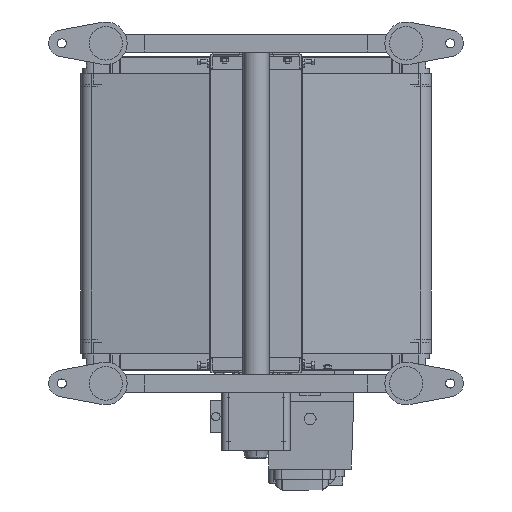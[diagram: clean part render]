
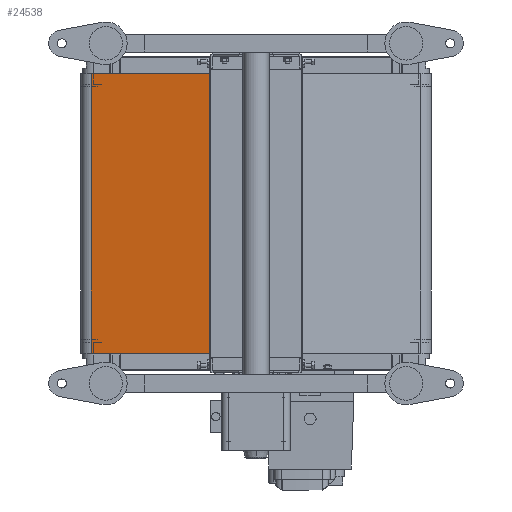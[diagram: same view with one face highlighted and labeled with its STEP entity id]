
A CAD part, front view. The second image highlights one B-rep face of the part: STEP entity #24538.
In plain terms, the highlighted planar face has unit normal (-0.176, -0.984, 0).
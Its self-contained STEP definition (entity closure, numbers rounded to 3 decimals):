
#578 = EDGE_CURVE ( 'NONE', #59422, #48893, #8103, .T. ) ;
#1359 = DIRECTION ( 'NONE',  ( 0.984, -0.176, 0. ) ) ;
#3165 = AXIS2_PLACEMENT_3D ( 'NONE', #43776, #38526, #69634 ) ;
#5311 = PLANE ( 'NONE',  #3165 ) ;
#5525 = EDGE_LOOP ( 'NONE', ( #17003, #19089, #44042, #54432 ) ) ;
#8103 = LINE ( 'NONE', #26527, #53080 ) ;
#9254 = EDGE_CURVE ( 'NONE', #48893, #72593, #35725, .T. ) ;
#12320 = DIRECTION ( 'NONE',  ( 0., 0., -1. ) ) ;
#15921 = FACE_OUTER_BOUND ( 'NONE', #5525, .T. ) ;
#17003 = ORIENTED_EDGE ( 'NONE', *, *, #60615, .T. ) ;
#17851 = CARTESIAN_POINT ( 'NONE',  ( 217.987, -70.264, 200. ) ) ;
#18160 = EDGE_CURVE ( 'NONE', #59422, #79700, #28914, .T. ) ;
#19089 = ORIENTED_EDGE ( 'NONE', *, *, #9254, .F. ) ;
#24538 = ADVANCED_FACE ( 'NONE', ( #15921 ), #5311, .F. ) ;
#24565 = VECTOR ( 'NONE', #1359, 1000. ) ;
#26527 = CARTESIAN_POINT ( 'NONE',  ( 14.409, -33.936, 200. ) ) ;
#28914 = LINE ( 'NONE', #77594, #70181 ) ;
#31566 = CARTESIAN_POINT ( 'NONE',  ( 217.987, -70.264, -200. ) ) ;
#33312 = LINE ( 'NONE', #70316, #24565 ) ;
#35725 = LINE ( 'NONE', #17851, #48502 ) ;
#38526 = DIRECTION ( 'NONE',  ( 0.176, 0.984, 0. ) ) ;
#39225 = CARTESIAN_POINT ( 'NONE',  ( 14.409, -33.936, -200. ) ) ;
#39308 = DIRECTION ( 'NONE',  ( 0.984, -0.176, 0. ) ) ;
#43776 = CARTESIAN_POINT ( 'NONE',  ( 14.409, -33.936, 200. ) ) ;
#44042 = ORIENTED_EDGE ( 'NONE', *, *, #578, .F. ) ;
#46612 = DIRECTION ( 'NONE',  ( 0., 0., -1. ) ) ;
#48502 = VECTOR ( 'NONE', #12320, 1000. ) ;
#48893 = VERTEX_POINT ( 'NONE', #78188 ) ;
#53080 = VECTOR ( 'NONE', #39308, 1000. ) ;
#54432 = ORIENTED_EDGE ( 'NONE', *, *, #18160, .T. ) ;
#59422 = VERTEX_POINT ( 'NONE', #80906 ) ;
#60615 = EDGE_CURVE ( 'NONE', #79700, #72593, #33312, .T. ) ;
#69634 = DIRECTION ( 'NONE',  ( -0.984, 0.176, 0. ) ) ;
#70181 = VECTOR ( 'NONE', #46612, 1000. ) ;
#70316 = CARTESIAN_POINT ( 'NONE',  ( 14.409, -33.936, -200. ) ) ;
#72593 = VERTEX_POINT ( 'NONE', #31566 ) ;
#77594 = CARTESIAN_POINT ( 'NONE',  ( 14.409, -33.936, 200. ) ) ;
#78188 = CARTESIAN_POINT ( 'NONE',  ( 217.987, -70.264, 200. ) ) ;
#79700 = VERTEX_POINT ( 'NONE', #39225 ) ;
#80906 = CARTESIAN_POINT ( 'NONE',  ( 14.409, -33.936, 200. ) ) ;
